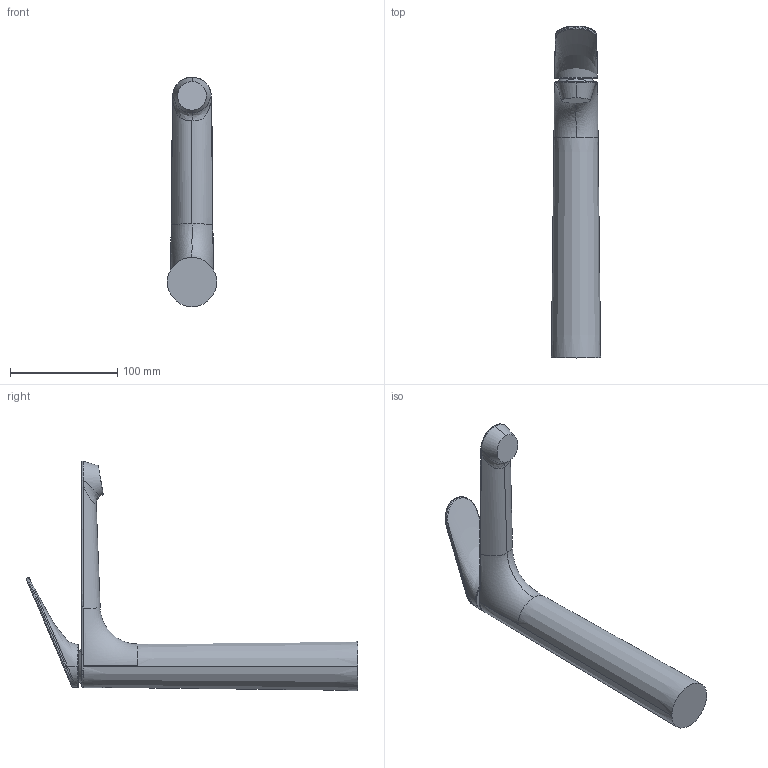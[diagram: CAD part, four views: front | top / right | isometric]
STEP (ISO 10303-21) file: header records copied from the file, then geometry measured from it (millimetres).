
FILE_DESCRIPTION (( 'STEP AP203' ), '1' );
FILE_NAME ('37562207(2025).STEP', '2024-12-17T12:59:25', ( '' ), ( '' ), 'SwSTEP 2.0', 'SolidWorks 2024', '' );
FILE_SCHEMA (( 'CONFIG_CONTROL_DESIGN' ));
Length unit declared in the file: millimetre
Products named in the file (1): 37562207(2025)
Bounding box: 46 x 309.45 x 214.09 mm (x, y, z)
Volume: 498040.1 mm3; surface area: 62101 mm2
Topology: 1 solids, 1 shells, 59 faces, 159 edges, 101 vertices
Faces by surface type: bspline 53, plane 4, cone 2
Entity records: 17841 total; most frequent: CARTESIAN_POINT 16724, ORIENTED_EDGE 312, EDGE_CURVE 156, B_SPLINE_CURVE_WITH_KNOTS 133, VERTEX_POINT 101, EDGE_LOOP 61, ADVANCED_FACE 59, FACE_OUTER_BOUND 59
